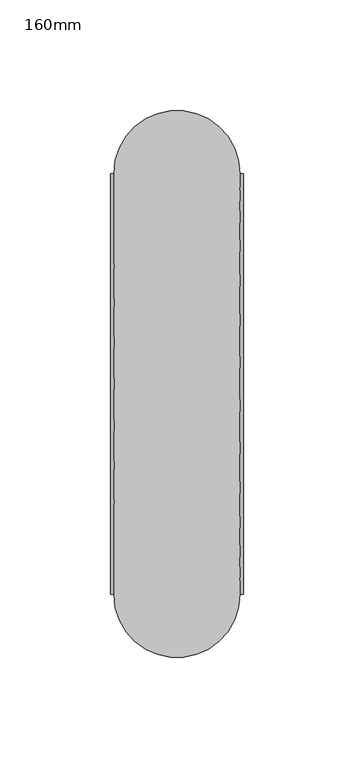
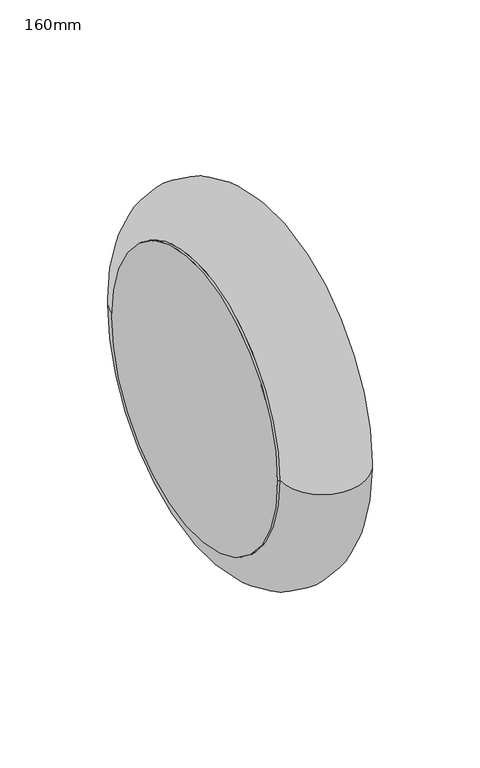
"""IFC4 building model written with IfcOpenShell, lengths in millimetres: pipe fitting geometry, PipeAccessory_HTA_CPVC_LinearExpansionCompensatorPN16 : 160mm."""

from ifc_helpers import new_model, si_unit, point, frame, origin, origin_2d, place, context, project, spatial, circle_curve, ellipse_curve, trimmed, segment, composite_curve, outline, extrude, source, transform, mapped, element, save
from ifc_brep_helpers import plane_surface, revolved_surface, advanced_brep


def pipe_fitting_160mm_23897f9d(model_context):
    return source(origin(), model_context, "Body", "SolidModel", [
        extrude(outline(composite_curve([segment(trimmed(circle_curve(origin_2d(), 95.0), [point((-95.0, 0.0))], [point((95.0, 0.0))], False, "CARTESIAN"), True, "CONTINUOUS"), segment(trimmed(circle_curve(origin_2d(), 95.0), [point((95.0, 0.0))], [point((-95.0, 0.0))], False, "CARTESIAN"), True, "CONTINUOUS")], self_intersect=False)), frame((28.5, 0.0, 0.0), z_axis=(1.0, 0.0, 0.0), x_axis=(0.0, 1.0, 0.0)), (0.0, 0.0, 1.0), 1.5),
        extrude(outline(composite_curve([segment(trimmed(circle_curve(origin_2d(), 95.0), [point((-95.0, 0.0))], [point((95.0, 0.0))], False, "CARTESIAN"), True, "CONTINUOUS"), segment(trimmed(circle_curve(origin_2d(), 95.0), [point((95.0, 0.0))], [point((-95.0, 0.0))], False, "CARTESIAN"), True, "CONTINUOUS")], self_intersect=False)), frame((-30.0, 0.0, 0.0), z_axis=(1.0, 0.0, 0.0), x_axis=(0.0, 1.0, 0.0)), (0.0, 0.0, 1.0), 1.5),
        advanced_brep(
        [(-28.5, 0.0, 0.0), (-28.5, 95.0, 0.0), (-28.5, -95.0, 0.0), (28.5, -95.0, 0.0), (28.5, 95.0, 0.0), (28.5, 0.0, 0.0)],
        [
            (0, 1),
            (1, 2, circle_curve(frame((-28.5, 0.0, 0.0), z_axis=(-1.0, 0.0, 0.0), x_axis=(0.0, 1.0, 0.0)), 95.0)),
            (2, 0),
            (2, 1, circle_curve(frame((-28.5, 0.0, 0.0), z_axis=(-1.0, 0.0, 0.0), x_axis=(0.0, 1.0, 0.0)), 95.0)),
            (3, 4, circle_curve(frame((28.5, 0.0, 0.0), z_axis=(1.0, 0.0, 0.0), x_axis=(0.0, 1.0, 0.0)), 95.0)),
            (4, 5),
            (5, 3),
            (4, 3, circle_curve(frame((28.5, 0.0, 0.0), z_axis=(1.0, 0.0, 0.0), x_axis=(0.0, 1.0, 0.0)), 95.0)),
            (1, 4, circle_curve(frame((0.0, 95.0, 0.0), z_axis=(0.0, 0.0, -1.0), x_axis=(1.0, 0.0, 0.0)), 28.5)),
            (3, 2, circle_curve(frame((0.0, -95.0, 0.0), z_axis=(0.0, 0.0, -1.0), x_axis=(1.0, 0.0, 0.0)), 28.5)),
        ],
        [
            plane_surface(frame((-28.5, 0.0, 0.0), z_axis=(-1.0, 0.0, 0.0), x_axis=(0.0, 1.0, 0.0))),
            plane_surface(frame((28.5, 0.0, 0.0), z_axis=(1.0, 0.0, 0.0), x_axis=(0.0, 1.0, 0.0))),
            revolved_surface(trimmed(ellipse_curve(frame((0.0, 95.0, 0.0), z_axis=(0.0, 0.0, 1.0), x_axis=(1.0, 0.0, 0.0)), 28.5, 28.5), [point((28.5, 95.0, 0.0))], [point((-28.5, 95.0, 0.0))], True, "CARTESIAN"), (-28.5, 0.0, 0.0), (-1.0, 0.0, 0.0)),
        ],
        [
            (0, [[1, 2, 3]]),
            (0, [[-3, 4, -1]]),
            (1, [[5, 6, 7]]),
            (1, [[8, -7, -6]]),
            (2, [[-2, 9, -5, 10]]),
            (2, [[-4, -10, -8, -9]]),
        ],
    ),
    ])


if __name__ == "__main__":
    model = new_model("IFC4")
    model_context = context("Model", 3, world=origin())
    ifc_project = project(units=[si_unit("LENGTHUNIT", "METRE", prefix="MILLI")], contexts=[model_context])
    site = spatial("IfcSite", under=ifc_project)
    building = spatial("IfcBuilding", under=site)
    placement = place(None, origin())
    pipe_fitting_160mm_shape = pipe_fitting_160mm_23897f9d(model_context)
    element("IfcPipeFitting", 1, ObjectType="PipeAccessory_HTA_CPVC_LinearExpansionCompensatorPN16 : 160mm", at=placement, inside=building, context=model_context, shape_type="MappedRepresentation", body=[
        mapped(pipe_fitting_160mm_shape, transform((0.0, 0.0, 0.0), x_axis=(1.0, 0.0, 0.0), y_axis=(0.0, 1.0, 0.0), z_axis=(0.0, 0.0, 1.0))),
    ])
    save(model, "model.ifc")
